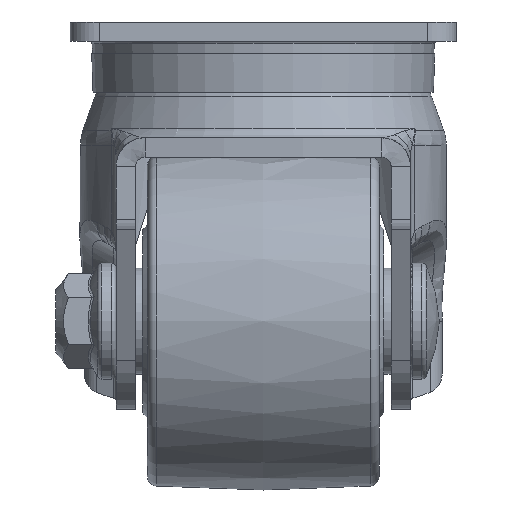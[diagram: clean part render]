
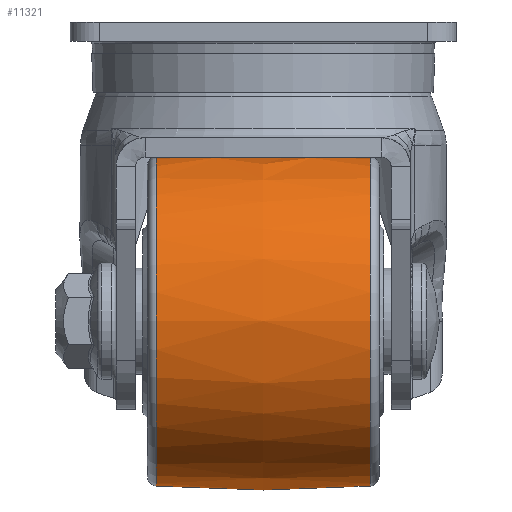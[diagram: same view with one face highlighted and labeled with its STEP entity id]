
A CAD part, left-side view. The second image highlights one B-rep face of the part: STEP entity #11321.
In plain terms, the highlighted free-form (B-spline) face has degree [2, 2] with [3, 9] control points.
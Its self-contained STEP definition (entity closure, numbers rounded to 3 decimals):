
#211=(
BOUNDED_SURFACE()
B_SPLINE_SURFACE(2,2,((#15802,#15803,#15804,#15805,#15806,#15807,#15808,
#15809,#15810),(#15811,#15812,#15813,#15814,#15815,#15816,#15817,#15818,
#15819),(#15820,#15821,#15822,#15823,#15824,#15825,#15826,#15827,#15828)),
 .UNSPECIFIED.,.F.,.T.,.F.)
B_SPLINE_SURFACE_WITH_KNOTS((3,3),(3,2,2,2,3),(-0.074,0.074),
(-3.142,-1.571,0.,1.571,3.142),
 .UNSPECIFIED.)
GEOMETRIC_REPRESENTATION_ITEM()
RATIONAL_B_SPLINE_SURFACE(((1.,0.707,1.,0.707,1.,
0.707,1.,0.707,1.),(0.997,0.705,
0.997,0.705,0.997,0.705,
0.997,0.705,0.997),(1.,0.707,
1.,0.707,1.,0.707,1.,0.707,1.)))
REPRESENTATION_ITEM('')
SURFACE()
);
#801=FACE_OUTER_BOUND('',#1434,.T.);
#1434=EDGE_LOOP('',(#7921,#7922,#7923,#7924,#7925,#7926));
#4852=CIRCLE('',#11984,34.181);
#4853=CIRCLE('',#11985,34.181);
#4856=CIRCLE('',#11989,34.181);
#4857=CIRCLE('',#11990,34.181);
#4858=CIRCLE('',#11991,300.);
#5045=VERTEX_POINT('',#15794);
#5046=VERTEX_POINT('',#15795);
#5048=VERTEX_POINT('',#15829);
#5049=VERTEX_POINT('',#15830);
#6173=EDGE_CURVE('',#5045,#5046,#4852,.T.);
#6174=EDGE_CURVE('',#5046,#5045,#4853,.T.);
#6177=EDGE_CURVE('',#5048,#5049,#4856,.T.);
#6178=EDGE_CURVE('',#5049,#5048,#4857,.T.);
#6179=EDGE_CURVE('',#5049,#5046,#4858,.T.);
#7921=ORIENTED_EDGE('',*,*,#6177,.F.);
#7922=ORIENTED_EDGE('',*,*,#6178,.F.);
#7923=ORIENTED_EDGE('',*,*,#6179,.T.);
#7924=ORIENTED_EDGE('',*,*,#6174,.T.);
#7925=ORIENTED_EDGE('',*,*,#6173,.T.);
#7926=ORIENTED_EDGE('',*,*,#6179,.F.);
#11321=ADVANCED_FACE('',(#801),#211,.F.);
#11984=AXIS2_PLACEMENT_3D('',#15796,#12844,#12845);
#11985=AXIS2_PLACEMENT_3D('',#15797,#12846,#12847);
#11989=AXIS2_PLACEMENT_3D('',#15831,#12854,#12855);
#11990=AXIS2_PLACEMENT_3D('',#15832,#12856,#12857);
#11991=AXIS2_PLACEMENT_3D('',#15833,#12858,#12859);
#12844=DIRECTION('center_axis',(0.,1.,0.));
#12845=DIRECTION('ref_axis',(-1.,0.,0.));
#12846=DIRECTION('center_axis',(0.,1.,0.));
#12847=DIRECTION('ref_axis',(-1.,0.,0.));
#12854=DIRECTION('center_axis',(0.,1.,0.));
#12855=DIRECTION('ref_axis',(-1.,0.,0.));
#12856=DIRECTION('center_axis',(0.,1.,0.));
#12857=DIRECTION('ref_axis',(-1.,0.,0.));
#12858=DIRECTION('center_axis',(1.,0.,0.));
#12859=DIRECTION('ref_axis',(0.,0.,
1.));
#15794=CARTESIAN_POINT('',(-55.181,-22.148,-16.13));
#15795=CARTESIAN_POINT('',(-21.,-22.148,18.051));
#15796=CARTESIAN_POINT('Origin',(-21.,-22.148,-16.13));
#15797=CARTESIAN_POINT('Origin',(-21.,-22.148,-16.13));
#15802=CARTESIAN_POINT('Ctrl Pts',(-21.,22.148,18.051));
#15803=CARTESIAN_POINT('Ctrl Pts',(-55.181,22.148,18.051));
#15804=CARTESIAN_POINT('Ctrl Pts',(-55.181,22.148,-16.13));
#15805=CARTESIAN_POINT('Ctrl Pts',(-55.181,22.148,-50.311));
#15806=CARTESIAN_POINT('Ctrl Pts',(-21.,22.148,-50.311));
#15807=CARTESIAN_POINT('Ctrl Pts',(13.181,22.148,-50.311));
#15808=CARTESIAN_POINT('Ctrl Pts',(13.181,22.148,-16.13));
#15809=CARTESIAN_POINT('Ctrl Pts',(13.181,22.148,18.051));
#15810=CARTESIAN_POINT('Ctrl Pts',(-21.,22.148,18.051));
#15811=CARTESIAN_POINT('Ctrl Pts',(-21.,0.,
19.691));
#15812=CARTESIAN_POINT('Ctrl Pts',(-56.821,0.,
19.691));
#15813=CARTESIAN_POINT('Ctrl Pts',(-56.821,0.,
-16.13));
#15814=CARTESIAN_POINT('Ctrl Pts',(-56.821,0.,
-51.951));
#15815=CARTESIAN_POINT('Ctrl Pts',(-21.,0.,
-51.951));
#15816=CARTESIAN_POINT('Ctrl Pts',(14.821,0.,
-51.951));
#15817=CARTESIAN_POINT('Ctrl Pts',(14.821,0.,
-16.13));
#15818=CARTESIAN_POINT('Ctrl Pts',(14.821,0.,
19.691));
#15819=CARTESIAN_POINT('Ctrl Pts',(-21.,0.,
19.691));
#15820=CARTESIAN_POINT('Ctrl Pts',(-21.,-22.148,18.051));
#15821=CARTESIAN_POINT('Ctrl Pts',(-55.181,-22.148,18.051));
#15822=CARTESIAN_POINT('Ctrl Pts',(-55.181,-22.148,-16.13));
#15823=CARTESIAN_POINT('Ctrl Pts',(-55.181,-22.148,-50.311));
#15824=CARTESIAN_POINT('Ctrl Pts',(-21.,-22.148,-50.311));
#15825=CARTESIAN_POINT('Ctrl Pts',(13.181,-22.148,-50.311));
#15826=CARTESIAN_POINT('Ctrl Pts',(13.181,-22.148,-16.13));
#15827=CARTESIAN_POINT('Ctrl Pts',(13.181,-22.148,18.051));
#15828=CARTESIAN_POINT('Ctrl Pts',(-21.,-22.148,18.051));
#15829=CARTESIAN_POINT('',(-55.181,22.148,-16.13));
#15830=CARTESIAN_POINT('',(-21.,22.148,18.051));
#15831=CARTESIAN_POINT('Origin',(-21.,22.148,-16.13));
#15832=CARTESIAN_POINT('Origin',(-21.,22.148,-16.13));
#15833=CARTESIAN_POINT('Origin',(-21.,0.,
-281.13));
